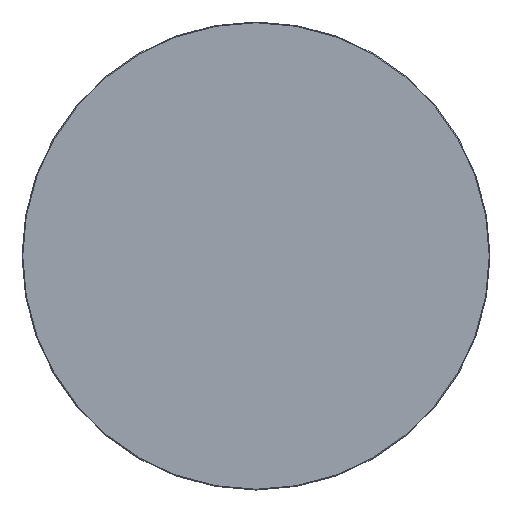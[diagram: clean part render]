
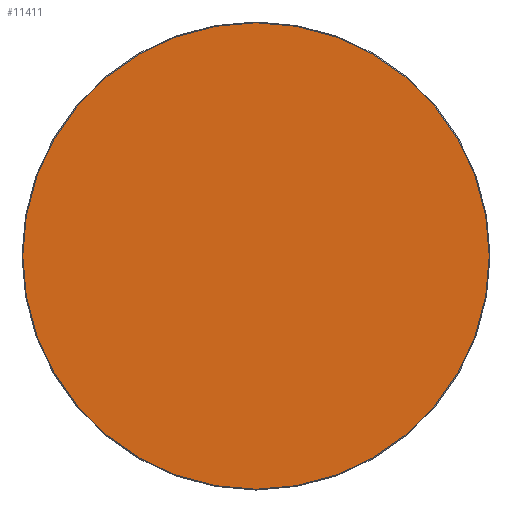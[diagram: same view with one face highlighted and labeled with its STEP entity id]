
A CAD part, top view. The second image highlights one B-rep face of the part: STEP entity #11411.
In plain terms, the highlighted planar face has unit normal (0, 0, 1).
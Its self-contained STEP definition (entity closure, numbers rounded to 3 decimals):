
#11336=CARTESIAN_POINT('',(0.,0.,20.));
#11337=DIRECTION('',(1.,0.,0.));
#11338=DIRECTION('',(0.,0.,1.));
#11339=AXIS2_PLACEMENT_3D('',#11336,#11338,#11337);
#11340=PLANE('',#11339);
#11341=CARTESIAN_POINT('',(-0.5,-448.5,20.));
#11342=VERTEX_POINT('',#11341);
#11343=CARTESIAN_POINT('',(0.5,-448.5,20.));
#11344=VERTEX_POINT('',#11343);
#11345=CARTESIAN_POINT('',(-0.5,-448.5,20.));
#11346=DIRECTION('',(1.,0.,0.));
#11347=VECTOR('',#11346,1.);
#11348=LINE('',#11345,#11347);
#11349=EDGE_CURVE('',#11342,#11344,#11348,.T.);
#11350=ORIENTED_EDGE('E105',*,*,#11349,.T.);
#11351=CARTESIAN_POINT('',(448.5,-0.5,20.));
#11352=VERTEX_POINT('',#11351);
#11353=CARTESIAN_POINT('',(0.5,-0.5,20.));
#11354=DIRECTION('',(0.,-1.,0.));
#11355=DIRECTION('',(0.,0.,1.));
#11356=AXIS2_PLACEMENT_3D('',#11353,#11355,#11354);
#11357=CIRCLE('',#11356,448.);
#11358=EDGE_CURVE('',#11344,#11352,#11357,.T.);
#11359=ORIENTED_EDGE('E107',*,*,#11358,.T.);
#11360=CARTESIAN_POINT('',(448.5,0.5,20.));
#11361=VERTEX_POINT('',#11360);
#11362=CARTESIAN_POINT('',(448.5,-0.5,20.));
#11363=DIRECTION('',(0.,1.,0.));
#11364=VECTOR('',#11363,1.);
#11365=LINE('',#11362,#11364);
#11366=EDGE_CURVE('',#11352,#11361,#11365,.T.);
#11367=ORIENTED_EDGE('E109',*,*,#11366,.T.);
#11368=CARTESIAN_POINT('',(0.5,448.5,20.));
#11369=VERTEX_POINT('',#11368);
#11370=CARTESIAN_POINT('',(0.5,0.5,20.));
#11371=DIRECTION('',(1.,0.,0.));
#11372=DIRECTION('',(0.,0.,1.));
#11373=AXIS2_PLACEMENT_3D('',#11370,#11372,#11371);
#11374=CIRCLE('',#11373,448.);
#11375=EDGE_CURVE('',#11361,#11369,#11374,.T.);
#11376=ORIENTED_EDGE('E111',*,*,#11375,.T.);
#11377=CARTESIAN_POINT('',(-0.5,448.5,20.));
#11378=VERTEX_POINT('',#11377);
#11379=CARTESIAN_POINT('',(0.5,448.5,20.));
#11380=DIRECTION('',(-1.,0.,0.));
#11381=VECTOR('',#11380,1.);
#11382=LINE('',#11379,#11381);
#11383=EDGE_CURVE('',#11369,#11378,#11382,.T.);
#11384=ORIENTED_EDGE('E113',*,*,#11383,.T.);
#11385=CARTESIAN_POINT('',(-448.5,0.5,20.));
#11386=VERTEX_POINT('',#11385);
#11387=CARTESIAN_POINT('',(-0.5,0.5,20.));
#11388=DIRECTION('',(0.,1.,0.));
#11389=DIRECTION('',(0.,0.,1.));
#11390=AXIS2_PLACEMENT_3D('',#11387,#11389,#11388);
#11391=CIRCLE('',#11390,448.);
#11392=EDGE_CURVE('',#11378,#11386,#11391,.T.);
#11393=ORIENTED_EDGE('E115',*,*,#11392,.T.);
#11394=CARTESIAN_POINT('',(-448.5,-0.5,20.));
#11395=VERTEX_POINT('',#11394);
#11396=CARTESIAN_POINT('',(-448.5,0.5,20.));
#11397=DIRECTION('',(0.,-1.,0.));
#11398=VECTOR('',#11397,1.);
#11399=LINE('',#11396,#11398);
#11400=EDGE_CURVE('',#11386,#11395,#11399,.T.);
#11401=ORIENTED_EDGE('E117',*,*,#11400,.T.);
#11402=CARTESIAN_POINT('',(-0.5,-0.5,20.));
#11403=DIRECTION('',(-1.,0.,0.));
#11404=DIRECTION('',(0.,0.,1.));
#11405=AXIS2_PLACEMENT_3D('',#11402,#11404,#11403);
#11406=CIRCLE('',#11405,448.);
#11407=EDGE_CURVE('',#11395,#11342,#11406,.T.);
#11408=ORIENTED_EDGE('E119',*,*,#11407,.T.);
#11409=EDGE_LOOP('',(#11350,#11359,#11367,#11376,#11384,#11393,#11401,#11408));
#11410=FACE_OUTER_BOUND('',#11409,.T.);
#11411=ADVANCED_FACE('F2',(#11410),#11340,.T.);
